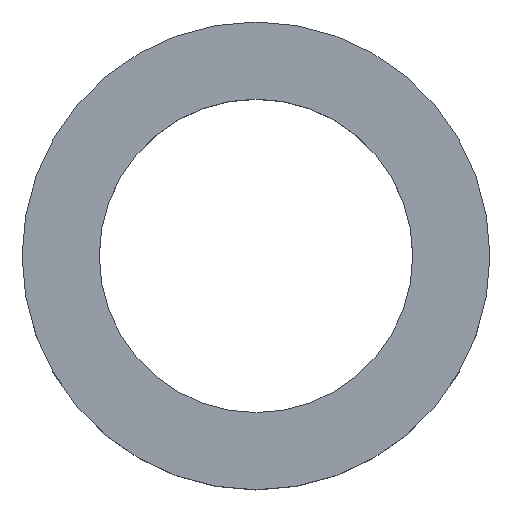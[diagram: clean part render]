
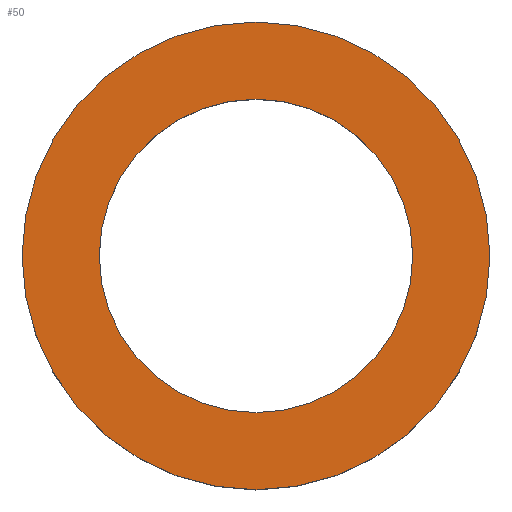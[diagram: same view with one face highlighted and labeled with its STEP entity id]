
A CAD part, top view. The second image highlights one B-rep face of the part: STEP entity #50.
In plain terms, the highlighted planar face has unit normal (0, 0, 1).
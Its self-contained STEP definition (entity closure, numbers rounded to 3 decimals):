
#21 = EDGE_CURVE('',#22,#22,#24,.T.);
#22 = VERTEX_POINT('',#23);
#23 = CARTESIAN_POINT('',(10.,0.,5.));
#24 = CIRCLE('',#25,10.);
#25 = AXIS2_PLACEMENT_3D('',#26,#27,#28);
#26 = CARTESIAN_POINT('',(0.,0.,5.));
#27 = DIRECTION('',(0.,0.,1.));
#28 = DIRECTION('',(1.,0.,0.));
#50 = ADVANCED_FACE('',(#51,#54),#65,.T.);
#51 = FACE_BOUND('',#52,.T.);
#52 = EDGE_LOOP('',(#53));
#53 = ORIENTED_EDGE('',*,*,#21,.T.);
#54 = FACE_BOUND('',#55,.T.);
#55 = EDGE_LOOP('',(#56));
#56 = ORIENTED_EDGE('',*,*,#57,.F.);
#57 = EDGE_CURVE('',#58,#58,#60,.T.);
#58 = VERTEX_POINT('',#59);
#59 = CARTESIAN_POINT('',(6.7,0.,5.));
#60 = CIRCLE('',#61,6.7);
#61 = AXIS2_PLACEMENT_3D('',#62,#63,#64);
#62 = CARTESIAN_POINT('',(0.,0.,5.));
#63 = DIRECTION('',(0.,0.,1.));
#64 = DIRECTION('',(1.,0.,0.));
#65 = PLANE('',#66);
#66 = AXIS2_PLACEMENT_3D('',#67,#68,#69);
#67 = CARTESIAN_POINT('',(0.,0.,5.));
#68 = DIRECTION('',(0.,0.,1.));
#69 = DIRECTION('',(1.,0.,0.));
